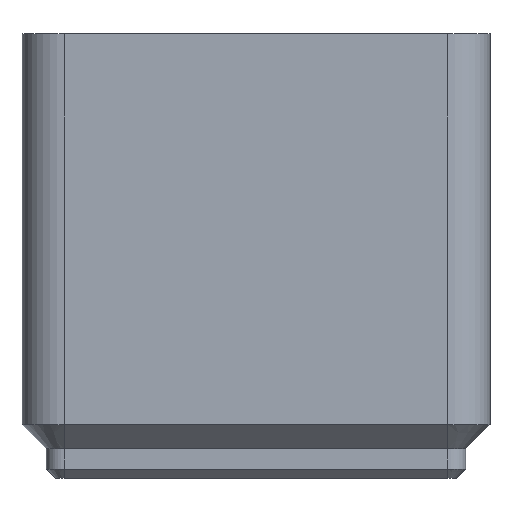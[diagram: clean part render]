
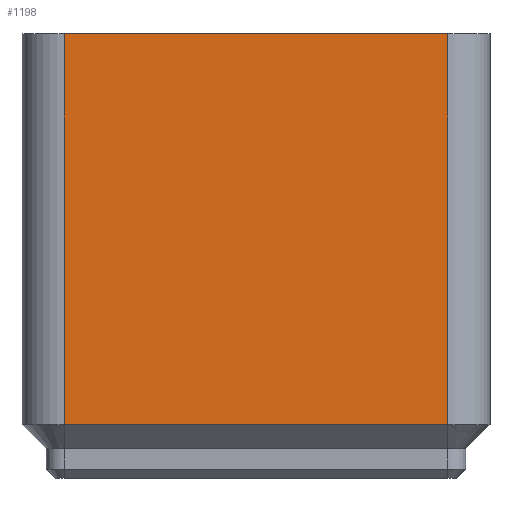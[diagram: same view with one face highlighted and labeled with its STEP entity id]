
A CAD part, left-side view. The second image highlights one B-rep face of the part: STEP entity #1198.
In plain terms, the highlighted planar face has unit normal (-1, 0, 0).
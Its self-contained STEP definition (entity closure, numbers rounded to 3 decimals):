
#416 = PLANE('',#417);
#417 = AXIS2_PLACEMENT_3D('',#418,#419,#420);
#418 = CARTESIAN_POINT('',(-20.75,0.,4.75));
#419 = DIRECTION('',(-0.707,0.,-0.707));
#420 = DIRECTION('',(0.,-1.,-0.));
#793 = VERTEX_POINT('',#794);
#794 = CARTESIAN_POINT('',(-20.75,-17.,4.75));
#812 = EDGE_CURVE('',#793,#813,#815,.T.);
#813 = VERTEX_POINT('',#814);
#814 = CARTESIAN_POINT('',(-20.75,17.,4.75));
#815 = SURFACE_CURVE('',#816,(#820,#827),.PCURVE_S1.);
#816 = LINE('',#817,#818);
#817 = CARTESIAN_POINT('',(-20.75,0.,4.75));
#818 = VECTOR('',#819,1.);
#819 = DIRECTION('',(0.,1.,0.));
#820 = PCURVE('',#416,#821);
#821 = DEFINITIONAL_REPRESENTATION('',(#822),#826);
#822 = LINE('',#823,#824);
#823 = CARTESIAN_POINT('',(0.,0.));
#824 = VECTOR('',#825,1.);
#825 = DIRECTION('',(-1.,0.));
#826 = ( GEOMETRIC_REPRESENTATION_CONTEXT(2) 
PARAMETRIC_REPRESENTATION_CONTEXT() REPRESENTATION_CONTEXT('2D SPACE',''
  ) );
#827 = PCURVE('',#828,#833);
#828 = PLANE('',#829);
#829 = AXIS2_PLACEMENT_3D('',#830,#831,#832);
#830 = CARTESIAN_POINT('',(-20.75,-17.,4.75));
#831 = DIRECTION('',(-1.,0.,0.));
#832 = DIRECTION('',(0.,1.,0.));
#833 = DEFINITIONAL_REPRESENTATION('',(#834),#838);
#834 = LINE('',#835,#836);
#835 = CARTESIAN_POINT('',(17.,0.));
#836 = VECTOR('',#837,1.);
#837 = DIRECTION('',(1.,0.));
#838 = ( GEOMETRIC_REPRESENTATION_CONTEXT(2) 
PARAMETRIC_REPRESENTATION_CONTEXT() REPRESENTATION_CONTEXT('2D SPACE',''
  ) );
#1187 = CYLINDRICAL_SURFACE('',#1188,3.75);
#1188 = AXIS2_PLACEMENT_3D('',#1189,#1190,#1191);
#1189 = CARTESIAN_POINT('',(-17.,-17.,4.75));
#1190 = DIRECTION('',(0.,0.,-1.));
#1191 = DIRECTION('',(-1.,0.,0.));
#1198 = ADVANCED_FACE('',(#1199),#828,.T.);
#1199 = FACE_BOUND('',#1200,.T.);
#1200 = EDGE_LOOP('',(#1201,#1224,#1252,#1278));
#1201 = ORIENTED_EDGE('',*,*,#1202,.T.);
#1202 = EDGE_CURVE('',#793,#1203,#1205,.T.);
#1203 = VERTEX_POINT('',#1204);
#1204 = CARTESIAN_POINT('',(-20.75,-17.,39.4));
#1205 = SURFACE_CURVE('',#1206,(#1210,#1217),.PCURVE_S1.);
#1206 = LINE('',#1207,#1208);
#1207 = CARTESIAN_POINT('',(-20.75,-17.,4.75));
#1208 = VECTOR('',#1209,1.);
#1209 = DIRECTION('',(0.,0.,1.));
#1210 = PCURVE('',#828,#1211);
#1211 = DEFINITIONAL_REPRESENTATION('',(#1212),#1216);
#1212 = LINE('',#1213,#1214);
#1213 = CARTESIAN_POINT('',(0.,0.));
#1214 = VECTOR('',#1215,1.);
#1215 = DIRECTION('',(0.,-1.));
#1216 = ( GEOMETRIC_REPRESENTATION_CONTEXT(2) 
PARAMETRIC_REPRESENTATION_CONTEXT() REPRESENTATION_CONTEXT('2D SPACE',''
  ) );
#1217 = PCURVE('',#1187,#1218);
#1218 = DEFINITIONAL_REPRESENTATION('',(#1219),#1223);
#1219 = LINE('',#1220,#1221);
#1220 = CARTESIAN_POINT('',(6.283,0.));
#1221 = VECTOR('',#1222,1.);
#1222 = DIRECTION('',(0.,-1.));
#1223 = ( GEOMETRIC_REPRESENTATION_CONTEXT(2) 
PARAMETRIC_REPRESENTATION_CONTEXT() REPRESENTATION_CONTEXT('2D SPACE',''
  ) );
#1224 = ORIENTED_EDGE('',*,*,#1225,.T.);
#1225 = EDGE_CURVE('',#1203,#1226,#1228,.T.);
#1226 = VERTEX_POINT('',#1227);
#1227 = CARTESIAN_POINT('',(-20.75,17.,39.4));
#1228 = SURFACE_CURVE('',#1229,(#1233,#1240),.PCURVE_S1.);
#1229 = LINE('',#1230,#1231);
#1230 = CARTESIAN_POINT('',(-20.75,0.,39.4));
#1231 = VECTOR('',#1232,1.);
#1232 = DIRECTION('',(0.,1.,0.));
#1233 = PCURVE('',#828,#1234);
#1234 = DEFINITIONAL_REPRESENTATION('',(#1235),#1239);
#1235 = LINE('',#1236,#1237);
#1236 = CARTESIAN_POINT('',(17.,-34.65));
#1237 = VECTOR('',#1238,1.);
#1238 = DIRECTION('',(1.,0.));
#1239 = ( GEOMETRIC_REPRESENTATION_CONTEXT(2) 
PARAMETRIC_REPRESENTATION_CONTEXT() REPRESENTATION_CONTEXT('2D SPACE',''
  ) );
#1240 = PCURVE('',#1241,#1246);
#1241 = PLANE('',#1242);
#1242 = AXIS2_PLACEMENT_3D('',#1243,#1244,#1245);
#1243 = CARTESIAN_POINT('',(0.,0.,39.4)
  );
#1244 = DIRECTION('',(0.,0.,1.));
#1245 = DIRECTION('',(1.,0.,0.));
#1246 = DEFINITIONAL_REPRESENTATION('',(#1247),#1251);
#1247 = LINE('',#1248,#1249);
#1248 = CARTESIAN_POINT('',(-20.75,0.));
#1249 = VECTOR('',#1250,1.);
#1250 = DIRECTION('',(0.,1.));
#1251 = ( GEOMETRIC_REPRESENTATION_CONTEXT(2) 
PARAMETRIC_REPRESENTATION_CONTEXT() REPRESENTATION_CONTEXT('2D SPACE',''
  ) );
#1252 = ORIENTED_EDGE('',*,*,#1253,.F.);
#1253 = EDGE_CURVE('',#813,#1226,#1254,.T.);
#1254 = SURFACE_CURVE('',#1255,(#1259,#1266),.PCURVE_S1.);
#1255 = LINE('',#1256,#1257);
#1256 = CARTESIAN_POINT('',(-20.75,17.,4.75));
#1257 = VECTOR('',#1258,1.);
#1258 = DIRECTION('',(0.,0.,1.));
#1259 = PCURVE('',#828,#1260);
#1260 = DEFINITIONAL_REPRESENTATION('',(#1261),#1265);
#1261 = LINE('',#1262,#1263);
#1262 = CARTESIAN_POINT('',(34.,0.));
#1263 = VECTOR('',#1264,1.);
#1264 = DIRECTION('',(0.,-1.));
#1265 = ( GEOMETRIC_REPRESENTATION_CONTEXT(2) 
PARAMETRIC_REPRESENTATION_CONTEXT() REPRESENTATION_CONTEXT('2D SPACE',''
  ) );
#1266 = PCURVE('',#1267,#1272);
#1267 = CYLINDRICAL_SURFACE('',#1268,3.75);
#1268 = AXIS2_PLACEMENT_3D('',#1269,#1270,#1271);
#1269 = CARTESIAN_POINT('',(-17.,17.,4.75));
#1270 = DIRECTION('',(0.,0.,-1.));
#1271 = DIRECTION('',(-1.,0.,0.));
#1272 = DEFINITIONAL_REPRESENTATION('',(#1273),#1277);
#1273 = LINE('',#1274,#1275);
#1274 = CARTESIAN_POINT('',(0.,0.));
#1275 = VECTOR('',#1276,1.);
#1276 = DIRECTION('',(0.,-1.));
#1277 = ( GEOMETRIC_REPRESENTATION_CONTEXT(2) 
PARAMETRIC_REPRESENTATION_CONTEXT() REPRESENTATION_CONTEXT('2D SPACE',''
  ) );
#1278 = ORIENTED_EDGE('',*,*,#812,.F.);
